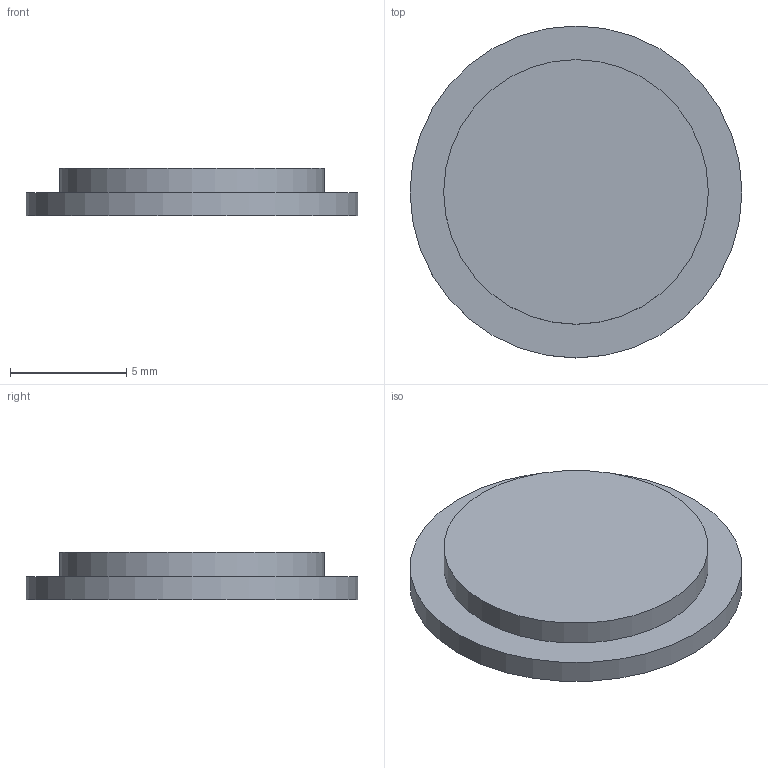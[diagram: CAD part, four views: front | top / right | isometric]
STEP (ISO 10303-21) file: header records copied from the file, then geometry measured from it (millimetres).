
FILE_DESCRIPTION(('FreeCAD Model'),'2;1');
FILE_NAME('Open CASCADE Shape Model','2026-09-23T14:25:23',('FreeCAD'),( 'FreeCAD'),'Open CASCADE STEP processor 7.8','FreeCAD','Unknown');
FILE_SCHEMA(('AUTOMOTIVE_DESIGN { 1 0 10303 214 1 1 1 1 }'));
Length unit declared in the file: millimetre
Products named in the file (1): Open CASCADE STEP translator 7.8 4
Bounding box: 14.3 x 14.3 x 2.05 mm (x, y, z)
Volume: 234.6 mm3; surface area: 433.3 mm2
Topology: 1 solids, 1 shells, 9 faces, 12 edges, 8 vertices
Faces by surface type: plane 5, cylinder 4
Full cylindrical faces by diameter (mm): 2.4 x1, 6.4 x1, 11.4 x1, 14.3 x1
Entity records: 202 total; most frequent: DIRECTION 38, CARTESIAN_POINT 32, ORIENTED_EDGE 24, AXIS2_PLACEMENT_3D 18, FACE_BOUND 12, EDGE_LOOP 12, EDGE_CURVE 12, ADVANCED_FACE 9
